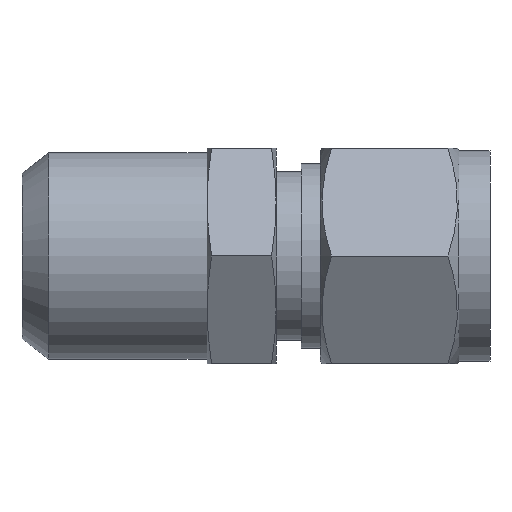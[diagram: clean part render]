
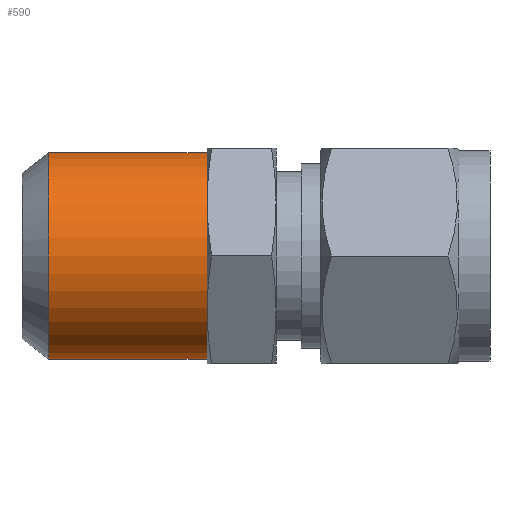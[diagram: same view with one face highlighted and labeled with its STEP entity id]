
A CAD part, front view. The second image highlights one B-rep face of the part: STEP entity #590.
In plain terms, the highlighted cylindrical face has radius 10.65 mm (diameter 21.3 mm), a partial arc.
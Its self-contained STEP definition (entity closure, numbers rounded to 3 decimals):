
#8 = DIRECTION ( 'NONE',  ( 1., 0., 0. ) ) ;
#9 = VECTOR ( 'NONE', #8, 1000. ) ;
#10 = CARTESIAN_POINT ( 'NONE',  ( -19.1, 0., 10.65 ) ) ;
#11 = CARTESIAN_POINT ( 'NONE',  ( 0., 0., -10.65 ) ) ;
#12 = LINE ( 'NONE', #10, #9 ) ;
#140 = CARTESIAN_POINT ( 'NONE',  ( -16.363, 0., -10.65 ) ) ;
#190 = CARTESIAN_POINT ( 'NONE',  ( 0., 0., 10.65 ) ) ;
#191 = VERTEX_POINT ( 'NONE', #190 ) ;
#194 = VERTEX_POINT ( 'NONE', #11 ) ;
#196 = EDGE_CURVE ( 'NONE', #213, #191, #12, .T. ) ;
#213 = VERTEX_POINT ( 'NONE', #1064 ) ;
#590 = ADVANCED_FACE ( 'NONE', ( #1153 ), #1157, .T. ) ;
#592 = EDGE_LOOP ( 'NONE', ( #596, #597, #643, #659 ) ) ;
#596 = ORIENTED_EDGE ( 'NONE', *, *, #196, .F. ) ;
#597 = ORIENTED_EDGE ( 'NONE', *, *, #1681, .F. ) ;
#643 = ORIENTED_EDGE ( 'NONE', *, *, #1683, .T. ) ;
#656 = EDGE_CURVE ( 'NONE', #194, #191, #725, .T. ) ;
#659 = ORIENTED_EDGE ( 'NONE', *, *, #656, .T. ) ;
#725 = CIRCLE ( 'NONE', #737, 10.65 ) ;
#732 = DIRECTION ( 'NONE',  ( 0., 0., -1. ) ) ;
#733 = DIRECTION ( 'NONE',  ( -1., 0., 0. ) ) ;
#736 = CARTESIAN_POINT ( 'NONE',  ( 0., 0., 0. ) ) ;
#737 = AXIS2_PLACEMENT_3D ( 'NONE', #736, #733, #732 ) ;
#967 = VERTEX_POINT ( 'NONE', #140 ) ;
#1064 = CARTESIAN_POINT ( 'NONE',  ( -16.363, 0., 10.65 ) ) ;
#1143 = DIRECTION ( 'NONE',  ( 0., 0., -1. ) ) ;
#1144 = DIRECTION ( 'NONE',  ( 1., 0., 0. ) ) ;
#1145 = CARTESIAN_POINT ( 'NONE',  ( -19.1, 0., 0. ) ) ;
#1146 = AXIS2_PLACEMENT_3D ( 'NONE', #1145, #1144, #1143 ) ;
#1153 = FACE_OUTER_BOUND ( 'NONE', #592, .T. ) ;
#1157 = CYLINDRICAL_SURFACE ( 'NONE', #1146, 10.65 ) ;
#1398 = CARTESIAN_POINT ( 'NONE',  ( -19.1, 0., -10.65 ) ) ;
#1399 = LINE ( 'NONE', #1398, #1460 ) ;
#1400 = DIRECTION ( 'NONE',  ( 0., 0., -1. ) ) ;
#1401 = DIRECTION ( 'NONE',  ( -1., 0., 0. ) ) ;
#1402 = CARTESIAN_POINT ( 'NONE',  ( -16.363, 0., 0. ) ) ;
#1403 = AXIS2_PLACEMENT_3D ( 'NONE', #1402, #1401, #1400 ) ;
#1404 = CIRCLE ( 'NONE', #1403, 10.65 ) ;
#1459 = DIRECTION ( 'NONE',  ( 1., 0., 0. ) ) ;
#1460 = VECTOR ( 'NONE', #1459, 1000. ) ;
#1681 = EDGE_CURVE ( 'NONE', #967, #213, #1404, .T. ) ;
#1683 = EDGE_CURVE ( 'NONE', #967, #194, #1399, .T. ) ;
